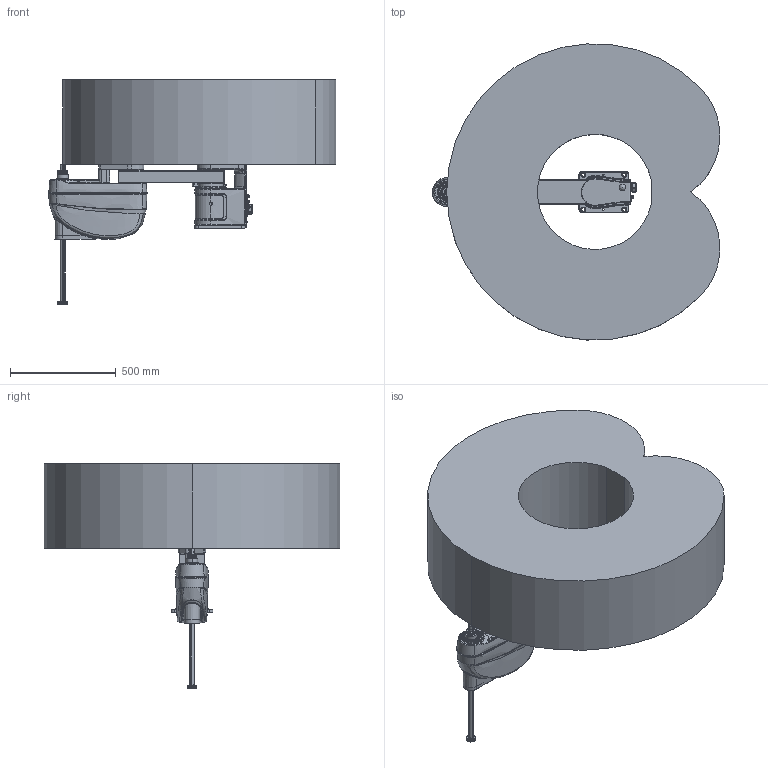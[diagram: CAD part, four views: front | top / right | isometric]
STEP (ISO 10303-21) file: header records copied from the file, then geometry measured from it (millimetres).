
FILE_DESCRIPTION (( 'STEP AP214' ), '1' );
FILE_NAME ('AIR12SC-700Z40A-OH-俋楷耀倰.STP', '2024-02-06T05:49:04', ( 'Windows User' ), ( 'P R C' ), 'SwSTEP 2.0', 'SolidWorks 2011', '' );
FILE_SCHEMA (( 'AUTOMOTIVE_DESIGN' ));
Length unit declared in the file: millimetre
Products named in the file (6): AIR12SC-700Z40A-OH-Working range; AIR12SC-700Z40A-OH-俋楷耀倰; AIR12SC-700Z40A-OH-Base; AIR12SC-700Z40A-OH-Upper-arm; AIR12SC-700Z40A-OH-Screw spline; AIR12SC-700Z40A-OH-Lower-arm
Assembly tree (5 placements, depth 2):
  AIR12SC-700Z40A-OH-俋楷耀倰
    AIR12SC-700Z40A-OH-Working range
    AIR12SC-700Z40A-OH-Upper-arm
    AIR12SC-700Z40A-OH-Screw spline
    AIR12SC-700Z40A-OH-Base
    AIR12SC-700Z40A-OH-Lower-arm
Bounding box: 1356.99 x 1397.8 x 1060 mm (x, y, z)
Volume: 518187258.5 mm3; surface area: 6363283.1 mm2
Topology: 54 solids, 62 shells, 4038 faces, 9915 edges, 6281 vertices
Faces by surface type: plane 1663, cylinder 1312, cone 594, bspline 278, torus 148, sphere 43
Entity records: 197129 total; most frequent: CARTESIAN_POINT 77368, DIRECTION 19774, ORIENTED_EDGE 19538, EDGE_CURVE 9769, AXIS2_PLACEMENT_3D 7509, VERTEX_POINT 6247, LINE 4756, VECTOR 4756
